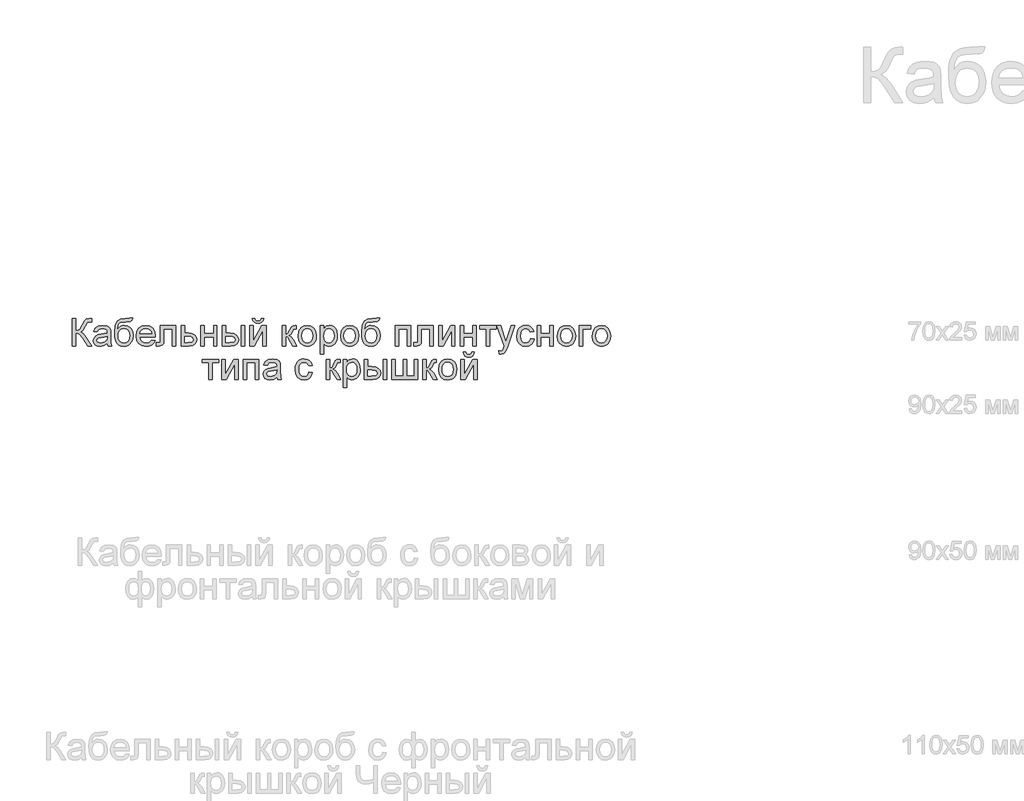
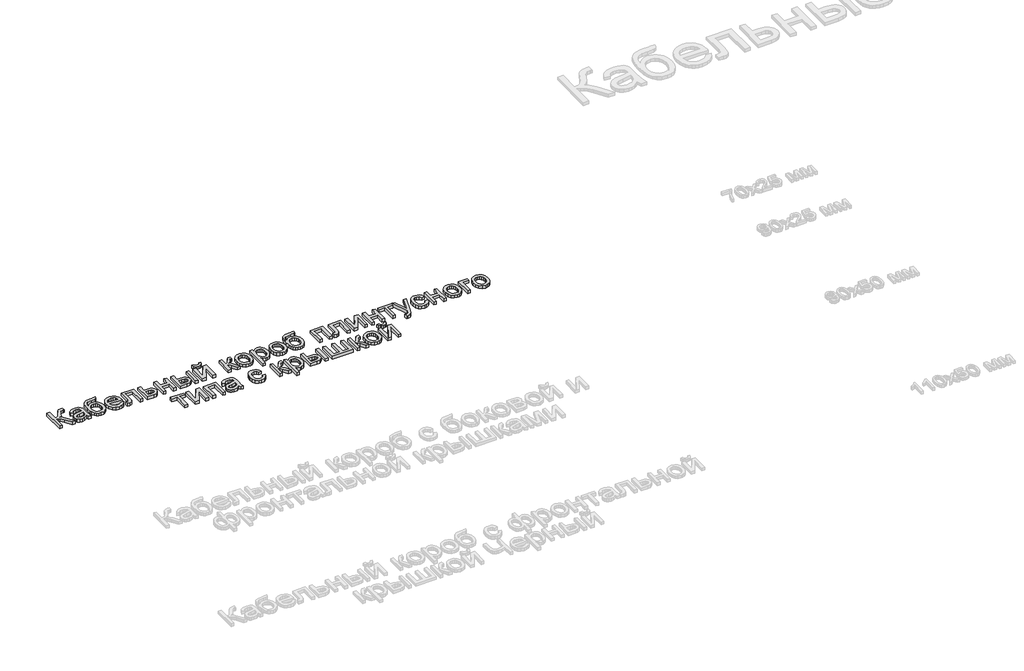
# One storey, part 28 of 48: 1 proxy.
"""IFC4 building model written with IfcOpenShell, lengths in millimetres."""

from ifc_helpers import new_model, si_unit, origin, origin_with_axes, place, context, project, spatial, polyline, outline, extrude, element, save

model = new_model("IFC4")

# Units and contexts
model_context = context("Model", 3, world=origin())
ifc_project = project(units=[si_unit("LENGTHUNIT", "METRE", prefix="MILLI")], contexts=[model_context])

# Site, building, storey
site = spatial("IfcSite", under=ifc_project)
building = spatial("IfcBuilding", under=site)
storey = spatial("IfcBuildingStorey", under=building, Name="Этаж 01", Elevation=0.0)

# Proxy
placement = place(None, origin())
element("IfcBuildingElementProxy", 1, Name="150 мм Arial", ObjectType="150 мм Arial", at=placement, inside=storey, context=model_context, shape_type="SweptSolid", body=[
    extrude(outline(polyline([(-4420.9132301, 4721.1449187), (-4402.0776719, 4721.1449187), (-4402.0776719, 4655.2204651), (-4389.3259623, 4656.4666654), (-4381.0164277, 4660.2052662), (-4366.319542, 4685.4235769), (-4355.9268756, 4706.4848211), (-4344.1546518, 4716.9142757), (-4327.3240505, 4721.1449187), (-4314.9632155, 4720.9241895), (-4314.9632155, 4702.0886313), (-4319.120282, 4702.1989959), (-4323.2773486, 4702.3093605), (-4337.9926284, 4697.784412), (-4349.176241, 4678.3970308), (-4362.5119634, 4654.7790067), (-4375.5165919, 4646.9799084), (-4360.976056, 4638.4634402), (-4346.6378553, 4620.713134), (-4314.9632155, 4570.4604534), (-4336.815406, 4570.4604534), (-4363.5972152, 4612.9140357), (-4382.4511675, 4635.0789259), (-4391.1561752, 4639.5900788), (-4402.0776719, 4641.0937965), (-4402.0776719, 4570.4604534), (-4420.9132301, 4570.4604534), (-4420.9132301, 4721.1449187)])), origin_with_axes(), (0.0, 0.0, 1.0), 20.0),
    extrude(outline(polyline([(-4230.2032038, 4584.587122), (-4248.4685449, 4571.8216168), (-4268.6468723, 4568.1060087), (-4284.3876232, 4570.3408918), (-4295.9988986, 4577.0455411), (-4303.158802, 4587.2266754), (-4305.5454364, 4599.891013), (-4301.9401929, 4614.7902338), (-4292.4672315, 4625.6059645), (-4279.278662, 4631.786382), (-4262.9814896, 4634.6190734), (-4230.3135684, 4641.0937965), (-4230.2032038, 4645.2876512), (-4231.4999878, 4653.6937548), (-4235.3903399, 4659.1935907), (-4244.0907491, 4663.2770808), (-4256.2124609, 4664.6382442), (-4275.2687482, 4661.0146065), (-4284.3554335, 4648.1571308), (-4303.1909916, 4650.5115756), (-4295.0424054, 4668.9056753), (-4278.6348685, 4679.6846178), (-4253.7844397, 4683.4738023), (-4230.9573619, 4680.1260762), (-4218.063098, 4671.7199726), (-4212.2873506, 4658.9360733), (-4211.3676456, 4642.4549599), (-4211.3676456, 4619.0208768), (-4210.4111525, 4586.2977733), (-4206.6587561, 4570.4604534), (-4225.4943143, 4570.4604534), (-4230.2032038, 4584.587122)]), holes=[polyline([(-4230.2032038, 4622.2582384), (-4260.5902566, 4616.482491), (-4276.7954585, 4613.4290705), (-4284.1347043, 4608.4626635), (-4286.7098783, 4601.2153882), (-4281.0996778, 4591.025057), (-4264.6369585, 4586.9415668), (-4245.5806712, 4591.4481213), (-4233.2934126, 4602.3558224), (-4230.3135684, 4616.9239494), (-4230.2032038, 4622.2582384)])]), origin_with_axes(), (0.0, 0.0, 1.0), 20.0),
    extrude(outline(polyline([(-4107.7720758, 4723.4993634), (-4091.2909624, 4723.4993634), (-4096.1470048, 4708.8024777), (-4105.7487248, 4703.4865829), (-4128.8149259, 4702.3093605), (-4159.8825604, 4697.968353), (-4167.0102741, 4692.3213643), (-4171.8019371, 4684.0624135), (-4175.8302449, 4659.4511081), (-4159.5146784, 4677.4773258), (-4149.5956601, 4681.9746832), (-4138.4902224, 4683.4738023), (-4118.8913091, 4679.6616252), (-4102.9896099, 4668.2250936), (-4092.4497907, 4650.2862479), (-4088.9365176, 4626.9671279), (-4090.6793586, 4608.9868954), (-4095.9078815, 4594.5567241), (-4112.4441771, 4575.0037961), (-4123.7381544, 4569.8304555), (-4138.4902224, 4568.1060087), (-4155.4909691, 4570.3270962), (-4168.2334817, 4576.9903588), (-4177.6098741, 4587.1163108), (-4184.51226, 4599.7254661), (-4188.761297, 4618.7127756), (-4190.1776427, 4647.9731898), (-4186.6045888, 4684.1129973), (-4175.8854272, 4706.1537274), (-4157.7534434, 4717.3971208), (-4131.9419229, 4721.1449187), (-4110.9726492, 4721.5679829), (-4107.7720758, 4723.4993634)]), holes=[polyline([(-4107.7720758, 4627.5557391), (-4109.8138209, 4642.376785), (-4115.9390561, 4654.2455778), (-4125.7798995, 4662.0400776), (-4138.968469, 4664.6382442), (-4152.7180586, 4661.8929248), (-4162.9175869, 4653.6569666), (-4169.2359601, 4640.8316806), (-4171.3420846, 4624.3183775), (-4169.0152309, 4608.3109122), (-4162.0346701, 4596.561681), (-4151.6420037, 4589.3465954), (-4139.0788336, 4586.9415668), (-4126.4512841, 4589.7236744), (-4116.4540909, 4598.0699972), (-4109.9425796, 4611.0056478), (-4107.7720758, 4627.5557391)])]), origin_with_axes(), (0.0, 0.0, 1.0), 20.0),
    extrude(outline(polyline([(-3987.9161218, 4603.4226802), (-3969.4484456, 4601.0682354), (-3976.1025112, 4587.153099), (-3986.7205053, 4576.7512355), (-4001.0633046, 4570.2673154), (-4018.8917858, 4568.1060087), (-4040.9922966, 4571.8354124), (-4057.9976419, 4583.0236236), (-4068.8409637, 4600.9440753), (-4072.4554043, 4624.8702005), (-4068.8041755, 4649.6010676), (-4057.8504891, 4668.0963349), (-4041.0750701, 4679.6294355), (-4019.9586436, 4683.4738023), (-3999.4998061, 4679.6386325), (-3983.1520499, 4668.1331231), (-3972.4328883, 4649.674644), (-3968.8598344, 4624.9805651), (-3968.970199, 4619.9037936), (-4053.6198461, 4619.9037936), (-4050.3594919, 4605.8047161), (-4042.7857214, 4595.4396409), (-4031.8550276, 4589.0660853), (-4018.5239038, 4586.9415668), (-4000.0562276, 4590.8779042), (-3987.9161218, 4603.4226802)]), holes=[polyline([(-4053.6198461, 4638.7393517), (-3987.6953926, 4638.7393517), (-3990.2429754, 4648.6905597), (-3995.2369735, 4655.8090763), (-4006.218251, 4662.4309522), (-4020.03222, 4664.6382442), (-4032.7287473, 4662.8770091), (-4043.2271797, 4657.593304), (-4050.5250388, 4649.3573458), (-4053.6198461, 4638.7393517)])]), origin_with_axes(), (0.0, 0.0, 1.0), 20.0),
    extrude(outline(polyline([(-3940.6064972, 4681.1193576), (-3855.8464855, 4681.1193576), (-3855.8464855, 4570.570818), (-3874.6820437, 4570.570818), (-3874.6820437, 4662.2837994), (-3921.770939, 4662.2837994), (-3921.770939, 4609.4927331), (-3923.0401319, 4585.138945), (-3930.0114957, 4574.8566433), (-3946.4926091, 4570.4604534), (-3961.7965001, 4571.4169466), (-3961.7965001, 4589.2960116), (-3953.3720024, 4589.2960116), (-3944.8555342, 4590.4548399), (-3941.4526258, 4594.1336598), (-3940.6064972, 4610.5595909), (-3940.6064972, 4681.1193576)])), origin_with_axes(), (0.0, 0.0, 1.0), 20.0),
    extrude(outline(polyline([(-3827.5931483, 4681.1193576), (-3808.7575901, 4681.1193576), (-3808.7575901, 4641.0937965), (-3787.0525524, 4641.0937965), (-3768.2353884, 4638.7347532), (-3754.3110548, 4631.6576233), (-3745.7026161, 4620.4326239), (-3742.8331366, 4605.6299722), (-3745.2749533, 4592.1516956), (-3752.6004036, 4580.7795434), (-3765.2969309, 4573.0402259), (-3783.851979, 4570.4604534), (-3827.5931483, 4570.4604534), (-3827.5931483, 4681.1193576)]), holes=[polyline([(-3808.7575901, 4589.2960116), (-3791.1728308, 4589.2960116), (-3768.4561175, 4593.250743), (-3763.3655504, 4598.313719), (-3761.6686947, 4605.593184), (-3766.690284, 4617.1814668), (-3774.7606952, 4620.9890455), (-3788.9287506, 4622.2582384), (-3808.7575901, 4622.2582384), (-3808.7575901, 4589.2960116)])]), origin_with_axes(), (0.0, 0.0, 1.0), 20.0),
    extrude(outline(polyline([(-3719.2886889, 4681.1193576), (-3700.4531307, 4681.1193576), (-3700.4531307, 4638.7393517), (-3651.0097906, 4638.7393517), (-3651.0097906, 4681.1193576), (-3632.1742324, 4681.1193576), (-3632.1742324, 4570.4604534), (-3651.0097906, 4570.4604534), (-3651.0097906, 4619.9037936), (-3700.4531307, 4619.9037936), (-3700.4531307, 4570.4604534), (-3719.2886889, 4570.4604534), (-3719.2886889, 4681.1193576)])), origin_with_axes(), (0.0, 0.0, 1.0), 20.0),
    extrude(outline(polyline([(-3500.3253254, 4681.1193576), (-3481.4897672, 4681.1193576), (-3481.4897672, 4570.4604534), (-3500.3253254, 4570.4604534), (-3500.3253254, 4681.1193576)])), origin_with_axes(), (0.0, 0.0, 1.0), 20.0),
    extrude(outline(polyline([(-3603.9208952, 4681.1193576), (-3585.0853371, 4681.1193576), (-3585.0853371, 4641.0937965), (-3561.7984068, 4641.0937965), (-3541.6706631, 4638.7347532), (-3526.7576467, 4631.6576233), (-3517.5284072, 4620.4326239), (-3514.451994, 4605.6299722), (-3517.0317665, 4592.1516956), (-3524.7710839, 4580.7795434), (-3538.1757841, 4573.0402259), (-3557.7517048, 4570.4604534), (-3603.9208952, 4570.4604534), (-3603.9208952, 4681.1193576)]), holes=[polyline([(-3585.0853371, 4589.2960116), (-3565.7347441, 4589.2960116), (-3540.7555566, 4593.250743), (-3535.1545533, 4598.313719), (-3533.2875521, 4605.593184), (-3538.8241762, 4617.1814668), (-3547.7039278, 4620.9890455), (-3563.2699347, 4622.2582384), (-3585.0853371, 4622.2582384), (-3585.0853371, 4589.2960116)])]), origin_with_axes(), (0.0, 0.0, 1.0), 20.0),
    extrude(outline(polyline([(-3392.020866, 4721.1449187), (-3377.8941974, 4721.1449187), (-3380.9338224, 4709.0829877), (-3387.036065, 4700.194039), (-3395.9250137, 4694.7171958), (-3407.324757, 4692.8915814), (-3419.6947891, 4694.7034003), (-3429.2873121, 4700.1388567), (-3435.8448087, 4709.0140099), (-3439.1097614, 4721.1449187), (-3424.9830928, 4721.1449187), (-3419.685592, 4710.5315231), (-3409.0170142, 4707.01825), (-3397.3183667, 4710.4211585), (-3392.020866, 4721.1449187)])), origin_with_axes(), (0.0, 0.0, 1.0), 20.0),
    extrude(outline(polyline([(-3453.23643, 4681.1193576), (-3434.4008718, 4681.1193576), (-3434.4008718, 4596.7272279), (-3388.1213168, 4681.1193576), (-3363.7675288, 4681.1193576), (-3363.7675288, 4570.4604534), (-3382.6030869, 4570.4604534), (-3382.6030869, 4654.3375483), (-3428.5883363, 4570.4604534), (-3453.23643, 4570.4604534), (-3453.23643, 4681.1193576)])), origin_with_axes(), (0.0, 0.0, 1.0), 20.0),
    extrude(outline(polyline([(-3276.6530723, 4681.1193576), (-3257.8175141, 4681.1193576), (-3257.8175141, 4634.0304622), (-3245.1991617, 4637.4149766), (-3234.8616776, 4657.1334515), (-3226.2716331, 4674.1479938), (-3218.693264, 4679.6846178), (-3204.9160832, 4681.1193576), (-3201.3108397, 4681.1193576), (-3201.3108397, 4662.1734348), (-3206.3876112, 4662.2837994), (-3215.5846611, 4660.2972367), (-3222.0593842, 4647.8996134), (-3229.6561474, 4634.4903147), (-3240.3063312, 4627.9236211), (-3228.4237427, 4620.5935723), (-3216.7618835, 4605.1517256), (-3196.6019501, 4570.4604534), (-3218.0126823, 4570.4604534), (-3237.7679454, 4604.4159616), (-3247.7007593, 4618.7817535), (-3257.8175141, 4622.2582384), (-3257.8175141, 4570.4604534), (-3276.6530723, 4570.4604534), (-3276.6530723, 4681.1193576)])), origin_with_axes(), (0.0, 0.0, 1.0), 20.0),
    extrude(outline(polyline([(-3189.5386158, 4625.7899055), (-3185.4643227, 4652.4705472), (-3173.2414435, 4671.2233319), (-3158.1398876, 4680.4111847), (-3140.0584875, 4683.4738023), (-3120.2710347, 4679.7443986), (-3104.4659045, 4668.5561874), (-3094.1054278, 4650.7920856), (-3090.6519355, 4627.3350099), (-3092.1786458, 4608.3063137), (-3096.7587767, 4593.8209601), (-3104.2589708, 4582.9730398), (-3114.5458711, 4574.8566433), (-3126.7641519, 4569.7936673), (-3140.0584875, 4568.1060087), (-3160.0850636, 4571.8216168), (-3175.8717997, 4582.9684413), (-3186.1219118, 4601.1050236), (-3189.5386158, 4625.7899055)]), holes=[polyline([(-3170.7030577, 4625.8266937), (-3168.5233569, 4608.7799618), (-3161.9842544, 4596.6352574), (-3152.143411, 4589.3649895), (-3140.0584875, 4586.9415668), (-3128.0287462, 4589.378785), (-3118.206297, 4596.6904397), (-3111.6671945, 4608.9960924), (-3109.4874937, 4626.4153049), (-3111.6809901, 4642.9653962), (-3118.2614793, 4654.9445536), (-3128.0977241, 4662.2148216), (-3140.0584875, 4664.6382442), (-3152.143411, 4662.2240186), (-3161.9842544, 4654.9813418), (-3168.5233569, 4642.8642286), (-3170.7030577, 4625.8266937)])]), origin_with_axes(), (0.0, 0.0, 1.0), 20.0),
    extrude(outline(polyline([(-3069.4619326, 4528.0804476), (-3069.4619326, 4681.1193576), (-3050.6263745, 4681.1193576), (-3050.6263745, 4662.6516814), (-3037.6033518, 4678.2682721), (-3020.0185925, 4683.4738023), (-3007.2806784, 4681.6527865), (-2996.143051, 4676.1897388), (-2987.0747598, 4667.4157533), (-2980.5448544, 4655.6619235), (-2975.2841418, 4626.6360341), (-2976.7694654, 4610.5274012), (-2981.2254361, 4596.1202226), (-2988.5094996, 4584.1456637), (-2998.4791016, 4575.3348899), (-3010.0903771, 4569.913229), (-3022.2994608, 4568.1060087), (-3038.6886037, 4572.9436569), (-3050.6263745, 4585.1757332), (-3050.6263745, 4528.0804476), (-3069.4619326, 4528.0804476)]), holes=[polyline([(-3050.6263745, 4624.9069887), (-3048.5892279, 4608.0212051), (-3042.4777883, 4596.2121931), (-3033.4600809, 4589.2592234), (-3022.704131, 4586.9415668), (-3011.7734372, 4589.3419968), (-3002.5258036, 4596.5432869), (-2996.2212259, 4608.7845603), (-2994.1197, 4626.3049403), (-2996.1706421, 4643.0987534), (-3002.3234685, 4655.0733123), (-3011.3273803, 4662.2470112), (-3021.9315788, 4664.6382442), (-3032.5771641, 4662.0952599), (-3041.9259653, 4654.466307), (-3048.4512722, 4641.9905089), (-3050.6263745, 4624.9069887)])]), origin_with_axes(), (0.0, 0.0, 1.0), 20.0),
    extrude(outline(polyline([(-2958.8030285, 4625.7899055), (-2954.7287354, 4652.4705472), (-2942.5058561, 4671.2233319), (-2927.4043002, 4680.4111847), (-2909.3229001, 4683.4738023), (-2889.5354473, 4679.7443986), (-2873.7303171, 4668.5561874), (-2863.3698404, 4650.7920856), (-2859.9163482, 4627.3350099), (-2861.4430584, 4608.3063137), (-2866.0231893, 4593.8209601), (-2873.5233835, 4582.9730398), (-2883.8102837, 4574.8566433), (-2896.0285645, 4569.7936673), (-2909.3229001, 4568.1060087), (-2929.3494762, 4571.8216168), (-2945.1362123, 4582.9684413), (-2955.3863244, 4601.1050236), (-2958.8030285, 4625.7899055)]), holes=[polyline([(-2939.9674703, 4625.8266937), (-2937.7877695, 4608.7799618), (-2931.248667, 4596.6352574), (-2921.4078237, 4589.3649895), (-2909.3229001, 4586.9415668), (-2897.2931589, 4589.378785), (-2887.4707096, 4596.6904397), (-2880.9316071, 4608.9960924), (-2878.7519063, 4626.4153049), (-2880.9454027, 4642.9653962), (-2887.5258919, 4654.9445536), (-2897.3621367, 4662.2148216), (-2909.3229001, 4664.6382442), (-2921.4078237, 4662.2240186), (-2931.248667, 4654.9813418), (-2937.7877695, 4642.8642286), (-2939.9674703, 4625.8266937)])]), origin_with_axes(), (0.0, 0.0, 1.0), 20.0),
    extrude(outline(polyline([(-2761.0296679, 4723.4993634), (-2744.5485545, 4723.4993634), (-2749.4045968, 4708.8024777), (-2759.0063169, 4703.4865829), (-2782.072518, 4702.3093605), (-2813.1401525, 4697.968353), (-2820.2678661, 4692.3213643), (-2825.0595291, 4684.0624135), (-2829.087837, 4659.4511081), (-2812.7722705, 4677.4773258), (-2802.8532522, 4681.9746832), (-2791.7478145, 4683.4738023), (-2772.1489012, 4679.6616252), (-2756.2472019, 4668.2250936), (-2745.7073828, 4650.2862479), (-2742.1941097, 4626.9671279), (-2743.9369507, 4608.9868954), (-2749.1654735, 4594.5567241), (-2765.7017692, 4575.0037961), (-2776.9957464, 4569.8304555), (-2791.7478145, 4568.1060087), (-2808.7485612, 4570.3270962), (-2821.4910738, 4576.9903588), (-2830.8674661, 4587.1163108), (-2837.7698521, 4599.7254661), (-2842.0188891, 4618.7127756), (-2843.4352348, 4647.9731898), (-2839.8621809, 4684.1129973), (-2829.1430193, 4706.1537274), (-2811.0110354, 4717.3971208), (-2785.1995149, 4721.1449187), (-2764.2302412, 4721.5679829), (-2761.0296679, 4723.4993634)]), holes=[polyline([(-2761.0296679, 4627.5557391), (-2763.0714129, 4642.376785), (-2769.1966482, 4654.2455778), (-2779.0374915, 4662.0400776), (-2792.226061, 4664.6382442), (-2805.9756506, 4661.8929248), (-2816.1751789, 4653.6569666), (-2822.4935522, 4640.8316806), (-2824.5996766, 4624.3183775), (-2822.272823, 4608.3109122), (-2815.2922621, 4596.561681), (-2804.8995958, 4589.3465954), (-2792.3364256, 4586.9415668), (-2779.7088762, 4589.7236744), (-2769.7116829, 4598.0699972), (-2763.2001716, 4611.0056478), (-2761.0296679, 4627.5557391)])]), origin_with_axes(), (0.0, 0.0, 1.0), 20.0),
    extrude(outline(polyline([(-2659.7885428, 4681.1193576), (-2575.0285311, 4681.1193576), (-2575.0285311, 4570.4604534), (-2593.8640892, 4570.4604534), (-2593.8640892, 4662.2837994), (-2640.9529846, 4662.2837994), (-2640.9529846, 4570.4604534), (-2659.7885428, 4570.4604534), (-2659.7885428, 4681.1193576)])), origin_with_axes(), (0.0, 0.0, 1.0), 20.0),
    extrude(outline(polyline([(-2537.3574148, 4681.1193576), (-2452.5974031, 4681.1193576), (-2452.5974031, 4570.570818), (-2471.4329613, 4570.570818), (-2471.4329613, 4662.2837994), (-2518.5218566, 4662.2837994), (-2518.5218566, 4609.4927331), (-2519.7910495, 4585.138945), (-2526.7624133, 4574.8566433), (-2543.2435267, 4570.4604534), (-2558.5474177, 4571.4169466), (-2558.5474177, 4589.2960116), (-2550.12292, 4589.2960116), (-2541.6064518, 4590.4548399), (-2538.2035434, 4594.1336598), (-2537.3574148, 4610.5595909), (-2537.3574148, 4681.1193576)])), origin_with_axes(), (0.0, 0.0, 1.0), 20.0),
    extrude(outline(polyline([(-2424.3440659, 4681.1193576), (-2405.5085077, 4681.1193576), (-2405.5085077, 4596.7272279), (-2359.2289527, 4681.1193576), (-2334.8751646, 4681.1193576), (-2334.8751646, 4570.4604534), (-2353.7107228, 4570.4604534), (-2353.7107228, 4654.3375483), (-2399.6959722, 4570.4604534), (-2424.3440659, 4570.4604534), (-2424.3440659, 4681.1193576)])), origin_with_axes(), (0.0, 0.0, 1.0), 20.0),
    extrude(outline(polyline([(-2306.6218274, 4681.1193576), (-2287.7862693, 4681.1193576), (-2287.7862693, 4638.7393517), (-2238.3429291, 4638.7393517), (-2238.3429291, 4681.1193576), (-2219.507371, 4681.1193576), (-2219.507371, 4570.4604534), (-2238.3429291, 4570.4604534), (-2238.3429291, 4619.9037936), (-2287.7862693, 4619.9037936), (-2287.7862693, 4570.4604534), (-2306.6218274, 4570.4604534), (-2306.6218274, 4681.1193576)])), origin_with_axes(), (0.0, 0.0, 1.0), 20.0),
    extrude(outline(polyline([(-2200.6718128, 4681.1193576), (-2111.2029116, 4681.1193576), (-2111.2029116, 4662.2837994), (-2146.5195831, 4662.2837994), (-2146.5195831, 4570.4604534), (-2165.3551413, 4570.4604534), (-2165.3551413, 4662.2837994), (-2200.6718128, 4662.2837994), (-2200.6718128, 4681.1193576)])), origin_with_axes(), (0.0, 0.0, 1.0), 20.0),
    extrude(outline(polyline([(-2094.7217982, 4528.0804476), (-2097.076243, 4546.2170299), (-2087.5113111, 4544.561561), (-2078.5717786, 4546.6400942), (-2073.0903369, 4552.4342357), (-2067.9399889, 4566.3033869), (-2066.468461, 4570.8651236), (-2106.494022, 4681.1193576), (-2086.6283943, 4681.1193576), (-2065.4016032, 4619.6830644), (-2058.0071751, 4595.1085471), (-2050.612747, 4616.8135848), (-2028.7973447, 4681.1193576), (-2009.0788697, 4681.1193576), (-2047.5961146, 4567.8117031), (-2057.6025049, 4543.2371858), (-2068.5286001, 4529.9566458), (-2083.2070917, 4525.7260028), (-2094.7217982, 4528.0804476)])), origin_with_axes(), (0.0, 0.0, 1.0), 20.0),
    extrude(outline(polyline([(-1922.84733, 4610.4860145), (-1904.0117719, 4608.1315697), (-1909.2632874, 4591.3791434), (-1919.1317219, 4578.7194042), (-1932.6881734, 4570.7593576), (-1949.0037399, 4568.1060087), (-1969.0395131, 4571.8078212), (-1984.7066875, 4582.913259), (-1994.8188439, 4600.9348782), (-1998.1895627, 4625.3852353), (-1996.7502244, 4642.1468587), (-1992.4322094, 4656.673599), (-1985.16654, 4668.4044361), (-1974.8842383, 4676.77835), (-1962.5831841, 4681.7999393), (-1949.2612573, 4683.4738023), (-1933.3457625, 4681.1745399), (-1920.621644, 4674.2767525), (-1911.493572, 4663.1483221), (-1906.3662167, 4648.1571308), (-1925.2017748, 4645.802686), (-1933.9389722, 4659.9109606), (-1949.1141045, 4664.6382442), (-1961.2864, 4662.3113906), (-1970.9479009, 4655.3308297), (-1977.2524786, 4643.3194826), (-1979.3540045, 4625.9002701), (-1977.2984639, 4608.2465329), (-1971.1318419, 4596.193799), (-1961.645085, 4589.2546249), (-1949.6291393, 4586.9415668), (-1939.8756679, 4588.3855036), (-1931.878833, 4592.7173141), (-1926.061699, 4600.0473629), (-1922.84733, 4610.4860145)])), origin_with_axes(), (0.0, 0.0, 1.0), 20.0),
    extrude(outline(polyline([(-1887.5306585, 4681.1193576), (-1868.6951004, 4681.1193576), (-1868.6951004, 4638.7393517), (-1819.2517602, 4638.7393517), (-1819.2517602, 4681.1193576), (-1800.4162021, 4681.1193576), (-1800.4162021, 4570.4604534), (-1819.2517602, 4570.4604534), (-1819.2517602, 4619.9037936), (-1868.6951004, 4619.9037936), (-1868.6951004, 4570.4604534), (-1887.5306585, 4570.4604534), (-1887.5306585, 4681.1193576)])), origin_with_axes(), (0.0, 0.0, 1.0), 20.0),
    extrude(outline(polyline([(-1776.8717544, 4625.7899055), (-1772.7974613, 4652.4705472), (-1760.574582, 4671.2233319), (-1745.4730261, 4680.4111847), (-1727.391626, 4683.4738023), (-1707.6041732, 4679.7443986), (-1691.799043, 4668.5561874), (-1681.4385663, 4650.7920856), (-1677.9850741, 4627.3350099), (-1679.5117843, 4608.3063137), (-1684.0919152, 4593.8209601), (-1691.5921094, 4582.9730398), (-1701.8790096, 4574.8566433), (-1714.0972904, 4569.7936673), (-1727.391626, 4568.1060087), (-1747.4182021, 4571.8216168), (-1763.2049382, 4582.9684413), (-1773.4550503, 4601.1050236), (-1776.8717544, 4625.7899055)]), holes=[polyline([(-1758.0361962, 4625.8266937), (-1755.8564954, 4608.7799618), (-1749.3173929, 4596.6352574), (-1739.4765496, 4589.3649895), (-1727.391626, 4586.9415668), (-1715.3618848, 4589.378785), (-1705.5394355, 4596.6904397), (-1699.000333, 4608.9960924), (-1696.8206322, 4626.4153049), (-1699.0141286, 4642.9653962), (-1705.5946178, 4654.9445536), (-1715.4308626, 4662.2148216), (-1727.391626, 4664.6382442), (-1739.4765496, 4662.2240186), (-1749.3173929, 4654.9813418), (-1755.8564954, 4642.8642286), (-1758.0361962, 4625.8266937)])]), origin_with_axes(), (0.0, 0.0, 1.0), 20.0),
    extrude(outline(polyline([(-1656.7950711, 4681.1193576), (-1595.5795071, 4681.1193576), (-1595.5795071, 4662.2837994), (-1637.959513, 4662.2837994), (-1637.959513, 4570.4604534), (-1656.7950711, 4570.4604534), (-1656.7950711, 4681.1193576)])), origin_with_axes(), (0.0, 0.0, 1.0), 20.0),
    extrude(outline(polyline([(-1586.1617281, 4625.7899055), (-1582.087435, 4652.4705472), (-1569.8645557, 4671.2233319), (-1554.7629998, 4680.4111847), (-1536.6815997, 4683.4738023), (-1516.8941469, 4679.7443986), (-1501.0890167, 4668.5561874), (-1490.72854, 4650.7920856), (-1487.2750478, 4627.3350099), (-1488.801758, 4608.3063137), (-1493.3818889, 4593.8209601), (-1500.8820831, 4582.9730398), (-1511.1689833, 4574.8566433), (-1523.3872641, 4569.7936673), (-1536.6815997, 4568.1060087), (-1556.7081758, 4571.8216168), (-1572.4949119, 4582.9684413), (-1582.745024, 4601.1050236), (-1586.1617281, 4625.7899055)]), holes=[polyline([(-1567.3261699, 4625.8266937), (-1565.1464691, 4608.7799618), (-1558.6073666, 4596.6352574), (-1548.7665233, 4589.3649895), (-1536.6815997, 4586.9415668), (-1524.6518585, 4589.378785), (-1514.8294092, 4596.6904397), (-1508.2903067, 4608.9960924), (-1506.1106059, 4626.4153049), (-1508.3041023, 4642.9653962), (-1514.8845915, 4654.9445536), (-1524.7208363, 4662.2148216), (-1536.6815997, 4664.6382442), (-1548.7665233, 4662.2240186), (-1558.6073666, 4654.9813418), (-1565.1464691, 4642.8642286), (-1567.3261699, 4625.8266937)])]), origin_with_axes(), (0.0, 0.0, 1.0), 20.0),
    extrude(outline(polyline([(-3712.2253546, 4498.1571308), (-3622.7564534, 4498.1571308), (-3622.7564534, 4479.3215727), (-3658.0731249, 4479.3215727), (-3658.0731249, 4387.4982267), (-3676.908683, 4387.4982267), (-3676.908683, 4479.3215727), (-3712.2253546, 4479.3215727), (-3712.2253546, 4498.1571308)])), origin_with_axes(), (0.0, 0.0, 1.0), 20.0),
    extrude(outline(polyline([(-3606.27534, 4498.1571308), (-3587.4397818, 4498.1571308), (-3587.4397818, 4413.7650011), (-3541.1602268, 4498.1571308), (-3516.8064387, 4498.1571308), (-3516.8064387, 4387.4982267), (-3535.6419969, 4387.4982267), (-3535.6419969, 4471.3753216), (-3581.6272463, 4387.4982267), (-3606.27534, 4387.4982267), (-3606.27534, 4498.1571308)])), origin_with_axes(), (0.0, 0.0, 1.0), 20.0),
    extrude(outline(polyline([(-3488.5531015, 4498.1571308), (-3403.7930898, 4498.1571308), (-3403.7930898, 4387.4982267), (-3422.628648, 4387.4982267), (-3422.628648, 4479.3215727), (-3469.7175434, 4479.3215727), (-3469.7175434, 4387.4982267), (-3488.5531015, 4387.4982267), (-3488.5531015, 4498.1571308)])), origin_with_axes(), (0.0, 0.0, 1.0), 20.0),
    extrude(outline(polyline([(-3304.9064095, 4401.6248953), (-3323.1717506, 4388.85939), (-3343.350078, 4385.1437819), (-3359.0908289, 4387.378665), (-3370.7021044, 4394.0833144), (-3377.8620077, 4404.2644486), (-3380.2486421, 4416.9287863), (-3376.6433986, 4431.8280071), (-3367.1704372, 4442.6437377), (-3353.9818677, 4448.8241553), (-3337.6846953, 4451.6568466), (-3305.0167741, 4458.1315697), (-3304.9064095, 4462.3254245), (-3306.2031936, 4470.7315281), (-3310.0935457, 4476.2313639), (-3318.7939548, 4480.314854), (-3330.9156666, 4481.6760174), (-3349.9719539, 4478.0523798), (-3359.0586392, 4465.194904), (-3377.8941974, 4467.5493488), (-3369.7456112, 4485.9434486), (-3353.3380742, 4496.722391), (-3328.4876454, 4500.5115756), (-3305.6605676, 4497.1638494), (-3292.7663037, 4488.7577458), (-3286.9905564, 4475.9738465), (-3286.0708514, 4459.4927331), (-3286.0708514, 4436.05865), (-3285.1143582, 4403.3355466), (-3281.3619618, 4387.4982267), (-3300.19752, 4387.4982267), (-3304.9064095, 4401.6248953)]), holes=[polyline([(-3304.9064095, 4439.2960116), (-3335.2934623, 4433.5202643), (-3351.4986642, 4430.4668437), (-3358.83791, 4425.5004368), (-3361.413084, 4418.2531615), (-3355.8028836, 4408.0628302), (-3339.3401643, 4403.97934), (-3320.2838769, 4408.4858945), (-3307.9966183, 4419.3935956), (-3305.0167741, 4433.9617227), (-3304.9064095, 4439.2960116)])]), origin_with_axes(), (0.0, 0.0, 1.0), 20.0),
    extrude(outline(polyline([(-3130.6774966, 4427.5237877), (-3111.8419385, 4425.169343), (-3117.0934539, 4408.4169166), (-3126.9618885, 4395.7571775), (-3140.51834, 4387.7971308), (-3156.8339065, 4385.1437819), (-3176.8696796, 4388.8455945), (-3192.5368541, 4399.9510322), (-3202.6490104, 4417.9726514), (-3206.0197292, 4442.4230085), (-3204.5803909, 4459.1846319), (-3200.262376, 4473.7113722), (-3192.9967066, 4485.4422094), (-3182.7144048, 4493.8161233), (-3170.4133506, 4498.8377125), (-3157.0914239, 4500.5115756), (-3141.175929, 4498.2123131), (-3128.4518105, 4491.3145257), (-3119.3237385, 4480.1860953), (-3114.1963832, 4465.194904), (-3133.0319414, 4462.8404593), (-3141.7691388, 4476.9487338), (-3156.9442711, 4481.6760174), (-3169.1165666, 4479.3491638), (-3178.7780675, 4472.3686029), (-3185.0826452, 4460.3572558), (-3187.1841711, 4442.9380433), (-3185.1286304, 4425.2843061), (-3178.9620085, 4413.2315722), (-3169.4752515, 4406.2923981), (-3157.4593059, 4403.97934), (-3147.7058345, 4405.4232769), (-3139.7089996, 4409.7550874), (-3133.8918655, 4417.0851361), (-3130.6774966, 4427.5237877)])), origin_with_axes(), (0.0, 0.0, 1.0), 20.0),
    extrude(outline(polyline([(-3036.4997058, 4498.1571308), (-3017.6641477, 4498.1571308), (-3017.6641477, 4451.0682354), (-3005.0457953, 4454.4527498), (-2994.7083112, 4474.1712247), (-2986.1182666, 4491.185767), (-2978.5398975, 4496.722391), (-2964.7627168, 4498.1571308), (-2961.1574732, 4498.1571308), (-2961.1574732, 4479.2112081), (-2966.2342448, 4479.3215727), (-2975.4312946, 4477.3350099), (-2981.9060178, 4464.9373866), (-2989.502781, 4451.5280879), (-3000.1529647, 4444.9613943), (-2988.2703763, 4437.6313456), (-2976.608517, 4422.1894988), (-2956.4485837, 4387.4982267), (-2977.8593158, 4387.4982267), (-2997.614579, 4421.4537348), (-3007.5473928, 4435.8195267), (-3017.6641477, 4439.2960116), (-3017.6641477, 4387.4982267), (-3036.4997058, 4387.4982267), (-3036.4997058, 4498.1571308)])), origin_with_axes(), (0.0, 0.0, 1.0), 20.0),
    extrude(outline(polyline([(-2944.6763598, 4345.1182208), (-2944.6763598, 4498.1571308), (-2925.8408017, 4498.1571308), (-2925.8408017, 4479.6894547), (-2912.8177791, 4495.3060453), (-2895.2330197, 4500.5115756), (-2882.4951056, 4498.6905597), (-2871.3574782, 4493.2275121), (-2862.289187, 4484.4535265), (-2855.7592816, 4472.6996967), (-2850.4985691, 4443.6738073), (-2851.9838926, 4427.5651745), (-2856.4398633, 4413.1579958), (-2863.7239268, 4401.1834369), (-2873.6935289, 4392.3726631), (-2885.3048044, 4386.9510022), (-2897.5138881, 4385.1437819), (-2913.903031, 4389.9814301), (-2925.8408017, 4402.2135065), (-2925.8408017, 4345.1182208), (-2944.6763598, 4345.1182208)]), holes=[polyline([(-2925.8408017, 4441.9447619), (-2923.8036551, 4425.0589784), (-2917.6922155, 4413.2499663), (-2908.6745081, 4406.2969966), (-2897.9185583, 4403.97934), (-2886.9878645, 4406.3797701), (-2877.7402308, 4413.5810601), (-2871.4356531, 4425.8223335), (-2869.3341272, 4443.3427135), (-2871.3850694, 4460.1365266), (-2877.5378957, 4472.1110856), (-2886.5418076, 4479.2847845), (-2897.1460061, 4481.6760174), (-2907.7915913, 4479.1330331), (-2917.1403925, 4471.5040803), (-2923.6656994, 4459.0282821), (-2925.8408017, 4441.9447619)])]), origin_with_axes(), (0.0, 0.0, 1.0), 20.0),
    extrude(outline(polyline([(-2725.7129963, 4498.1571308), (-2706.8774382, 4498.1571308), (-2706.8774382, 4387.4982267), (-2725.7129963, 4387.4982267), (-2725.7129963, 4498.1571308)])), origin_with_axes(), (0.0, 0.0, 1.0), 20.0),
    extrude(outline(polyline([(-2829.3085662, 4498.1571308), (-2810.473008, 4498.1571308), (-2810.473008, 4458.1315697), (-2787.1860777, 4458.1315697), (-2767.0583341, 4455.7725264), (-2752.1453177, 4448.6953966), (-2742.9160781, 4437.4703972), (-2739.8396649, 4422.6677454), (-2742.4194374, 4409.1894688), (-2750.1587549, 4397.8173166), (-2763.5634551, 4390.0779992), (-2783.1393758, 4387.4982267), (-2829.3085662, 4387.4982267), (-2829.3085662, 4498.1571308)]), holes=[polyline([(-2810.473008, 4406.3337848), (-2791.1224151, 4406.3337848), (-2766.1432276, 4410.2885163), (-2760.5422242, 4415.3514922), (-2758.6752231, 4422.6309572), (-2764.2118471, 4434.21924), (-2773.0915988, 4438.0268187), (-2788.6576057, 4439.2960116), (-2810.473008, 4439.2960116), (-2810.473008, 4406.3337848)])]), origin_with_axes(), (0.0, 0.0, 1.0), 20.0),
    extrude(outline(polyline([(-2678.6241009, 4498.1571308), (-2659.7885428, 4498.1571308), (-2659.7885428, 4406.3337848), (-2617.4085369, 4406.3337848), (-2617.4085369, 4498.1571308), (-2598.5729788, 4498.1571308), (-2598.5729788, 4406.3337848), (-2556.1929729, 4406.3337848), (-2556.1929729, 4498.1571308), (-2537.3574148, 4498.1571308), (-2537.3574148, 4387.4982267), (-2678.6241009, 4387.4982267), (-2678.6241009, 4498.1571308)])), origin_with_axes(), (0.0, 0.0, 1.0), 20.0),
    extrude(outline(polyline([(-2511.4585223, 4498.1571308), (-2492.6229642, 4498.1571308), (-2492.6229642, 4451.0682354), (-2480.0046117, 4454.4527498), (-2469.6671277, 4474.1712247), (-2461.0770831, 4491.185767), (-2453.498714, 4496.722391), (-2439.7215333, 4498.1571308), (-2436.1162897, 4498.1571308), (-2436.1162897, 4479.2112081), (-2441.1930613, 4479.3215727), (-2450.3901111, 4477.3350099), (-2456.8648342, 4464.9373866), (-2464.4615974, 4451.5280879), (-2475.1117812, 4444.9613943), (-2463.2291928, 4437.6313456), (-2451.5673335, 4422.1894988), (-2431.4074002, 4387.4982267), (-2452.8181323, 4387.4982267), (-2472.5733954, 4421.4537348), (-2482.5062093, 4435.8195267), (-2492.6229642, 4439.2960116), (-2492.6229642, 4387.4982267), (-2511.4585223, 4387.4982267), (-2511.4585223, 4498.1571308)])), origin_with_axes(), (0.0, 0.0, 1.0), 20.0),
    extrude(outline(polyline([(-2424.3440659, 4442.8276787), (-2420.2697728, 4469.5083204), (-2408.0468935, 4488.2611051), (-2392.9453376, 4497.448958), (-2374.8639375, 4500.5115756), (-2355.0764847, 4496.7821719), (-2339.2713545, 4485.5939607), (-2328.9108778, 4467.8298588), (-2325.4573856, 4444.3727831), (-2326.9840958, 4425.3440869), (-2331.5642267, 4410.8587334), (-2339.0644209, 4400.010813), (-2349.3513212, 4391.8944165), (-2361.5696019, 4386.8314405), (-2374.8639375, 4385.1437819), (-2394.8905136, 4388.85939), (-2410.6772498, 4400.0062145), (-2420.9273618, 4418.1427969), (-2424.3440659, 4442.8276787)]), holes=[polyline([(-2405.5085077, 4442.8644669), (-2403.3288069, 4425.817735), (-2396.7897044, 4413.6730306), (-2386.9488611, 4406.4027627), (-2374.8639375, 4403.97934), (-2362.8341963, 4406.4165583), (-2353.011747, 4413.7282129), (-2346.4726445, 4426.0338657), (-2344.2929437, 4443.4530781), (-2346.4864401, 4460.0031694), (-2353.0669293, 4471.9823269), (-2362.9031742, 4479.2525948), (-2374.8639375, 4481.6760174), (-2386.9488611, 4479.2617918), (-2396.7897044, 4472.0191151), (-2403.3288069, 4459.9020018), (-2405.5085077, 4442.8644669)])]), origin_with_axes(), (0.0, 0.0, 1.0), 20.0),
    extrude(outline(polyline([(-2304.2673826, 4498.1571308), (-2285.4318245, 4498.1571308), (-2285.4318245, 4413.7650011), (-2239.1522695, 4498.1571308), (-2214.7984814, 4498.1571308), (-2214.7984814, 4387.4982267), (-2233.6340396, 4387.4982267), (-2233.6340396, 4471.3753216), (-2279.619289, 4387.4982267), (-2304.2673826, 4387.4982267), (-2304.2673826, 4498.1571308)])), origin_with_axes(), (0.0, 0.0, 1.0), 20.0),
    extrude(outline(polyline([(-2243.0518186, 4538.1826919), (-2228.92515, 4538.1826919), (-2231.964775, 4526.120761), (-2238.0670176, 4517.2318123), (-2246.9559663, 4511.7549691), (-2258.3557096, 4509.9293547), (-2270.7257417, 4511.7411735), (-2280.3182648, 4517.17663), (-2286.8757613, 4526.0517831), (-2290.140714, 4538.1826919), (-2276.0140454, 4538.1826919), (-2270.7165447, 4527.5692963), (-2260.0479668, 4524.0560233), (-2248.3493194, 4527.4589317), (-2243.0518186, 4538.1826919)])), origin_with_axes(), (0.0, 0.0, 1.0), 20.0),
])

save(model, "model.ifc")
